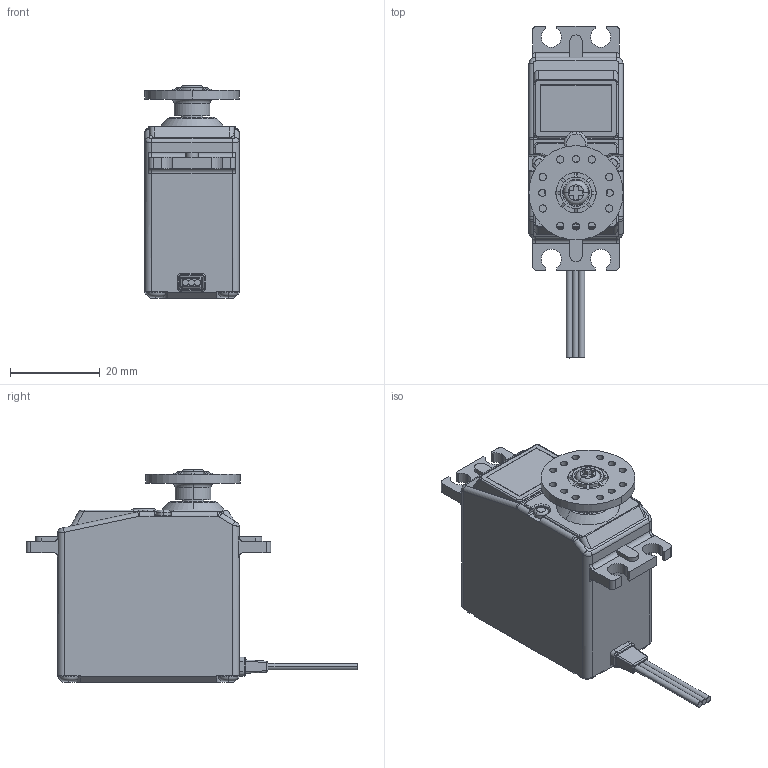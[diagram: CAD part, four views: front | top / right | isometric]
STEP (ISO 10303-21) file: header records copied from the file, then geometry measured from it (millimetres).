
FILE_DESCRIPTION (( 'STEP AP203' ), '1' );
FILE_NAME ('BLA1HC21(3D).STEP', '2022-12-06T04:19:25', ( '' ), ( '' ), 'SwSTEP 2.0', 'SolidWorks 2022', '' );
FILE_SCHEMA (( 'CONFIG_CONTROL_DESIGN' ));
Length unit declared in the file: millimetre
Products named in the file (4): SCREW M3x8; HORN; BLA1HC21; BLA1HC21(3D)
Assembly tree (3 placements, depth 2):
  BLA1HC21(3D)
    BLA1HC21
    HORN
    SCREW M3x8
Bounding box: 21 x 73.95 x 47.4 mm (x, y, z)
Volume: 33730.2 mm3; surface area: 8561.3 mm2
Topology: 3 solids, 3 shells, 424 faces, 1056 edges, 660 vertices
Faces by surface type: cylinder 186, plane 161, torus 36, cone 17, bspline 16, sphere 8
Entity records: 15972 total; most frequent: CARTESIAN_POINT 5338, DIRECTION 2214, ORIENTED_EDGE 2104, EDGE_CURVE 1052, AXIS2_PLACEMENT_3D 848, VERTEX_POINT 660, LINE 518, VECTOR 518
